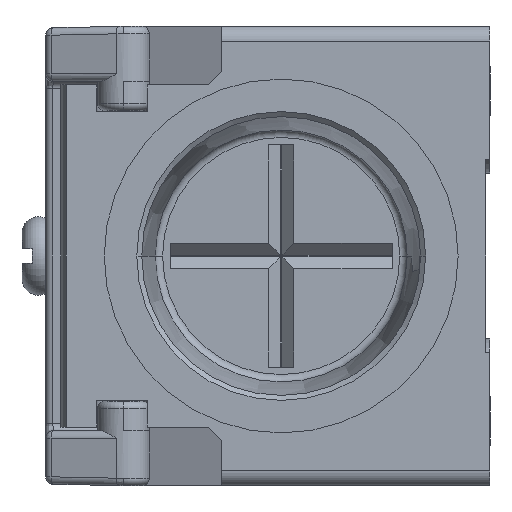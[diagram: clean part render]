
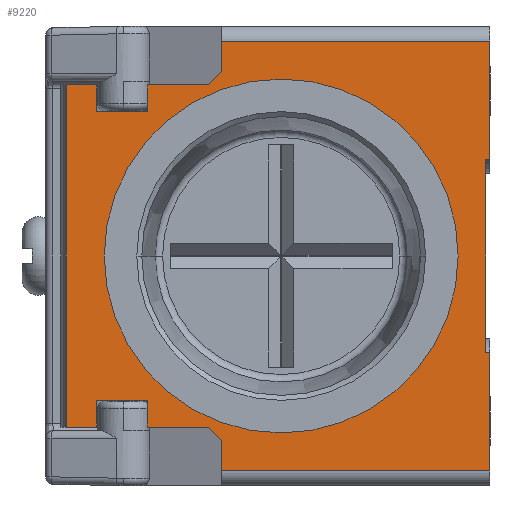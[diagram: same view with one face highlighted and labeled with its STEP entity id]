
A CAD part, left-side view. The second image highlights one B-rep face of the part: STEP entity #9220.
In plain terms, the highlighted planar face has unit normal (-1, 0, 0).
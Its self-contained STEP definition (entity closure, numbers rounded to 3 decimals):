
#6607 = VERTEX_POINT('',#6608);
#6608 = CARTESIAN_POINT('',(-16.956,23.963,6.5));
#6614 = EDGE_CURVE('',#6615,#6607,#6617,.T.);
#6615 = VERTEX_POINT('',#6616);
#6616 = CARTESIAN_POINT('',(-16.956,23.963,-6.5));
#6617 = LINE('',#6618,#6619);
#6618 = CARTESIAN_POINT('',(-16.956,23.963,-6.5));
#6619 = VECTOR('',#6620,1.);
#6620 = DIRECTION('',(0.,0.,1.));
#7945 = VERTEX_POINT('',#7946);
#7946 = CARTESIAN_POINT('',(-16.956,23.663,-6.5));
#7952 = EDGE_CURVE('',#7953,#7945,#7955,.T.);
#7953 = VERTEX_POINT('',#7954);
#7954 = CARTESIAN_POINT('',(-16.956,23.663,-14.5));
#7955 = LINE('',#7956,#7957);
#7956 = CARTESIAN_POINT('',(-16.956,23.663,-14.5));
#7957 = VECTOR('',#7958,1.);
#7958 = DIRECTION('',(0.,0.,1.));
#8252 = VERTEX_POINT('',#8253);
#8253 = CARTESIAN_POINT('',(-16.956,42.663,11.55));
#8259 = EDGE_CURVE('',#8260,#8252,#8262,.T.);
#8260 = VERTEX_POINT('',#8261);
#8261 = CARTESIAN_POINT('',(-16.956,41.763,12.45));
#8262 = LINE('',#8263,#8264);
#8263 = CARTESIAN_POINT('',(-16.956,41.763,12.45));
#8264 = VECTOR('',#8265,1.);
#8265 = DIRECTION('',(0.,0.707,-0.707));
#8285 = EDGE_CURVE('',#8260,#8286,#8288,.T.);
#8286 = VERTEX_POINT('',#8287);
#8287 = CARTESIAN_POINT('',(-16.956,41.763,14.5));
#8288 = LINE('',#8289,#8290);
#8289 = CARTESIAN_POINT('',(-16.956,41.763,12.45));
#8290 = VECTOR('',#8291,1.);
#8291 = DIRECTION('',(0.,0.,1.));
#8308 = EDGE_CURVE('',#8309,#8311,#8313,.T.);
#8309 = VERTEX_POINT('',#8310);
#8310 = CARTESIAN_POINT('',(-16.956,41.763,-14.5));
#8311 = VERTEX_POINT('',#8312);
#8312 = CARTESIAN_POINT('',(-16.956,41.763,-12.45));
#8313 = LINE('',#8314,#8315);
#8314 = CARTESIAN_POINT('',(-16.956,41.763,-14.5));
#8315 = VECTOR('',#8316,1.);
#8316 = DIRECTION('',(0.,0.,1.));
#8341 = EDGE_CURVE('',#8342,#8286,#8344,.T.);
#8342 = VERTEX_POINT('',#8343);
#8343 = CARTESIAN_POINT('',(-16.956,23.663,14.5));
#8344 = LINE('',#8345,#8346);
#8345 = CARTESIAN_POINT('',(-16.956,23.663,14.5));
#8346 = VECTOR('',#8347,1.);
#8347 = DIRECTION('',(0.,1.,0.));
#8453 = EDGE_CURVE('',#8342,#8454,#8456,.T.);
#8454 = VERTEX_POINT('',#8455);
#8455 = CARTESIAN_POINT('',(-16.956,23.663,6.5));
#8456 = LINE('',#8457,#8458);
#8457 = CARTESIAN_POINT('',(-16.956,23.663,14.5));
#8458 = VECTOR('',#8459,1.);
#8459 = DIRECTION('',(0.,0.,-1.));
#9209 = EDGE_CURVE('',#6607,#8454,#9210,.T.);
#9210 = LINE('',#9211,#9212);
#9211 = CARTESIAN_POINT('',(-16.956,23.963,6.5));
#9212 = VECTOR('',#9213,1.);
#9213 = DIRECTION('',(0.,-1.,0.));
#9220 = ADVANCED_FACE('',(#9221,#9337),#9357,.T.);
#9221 = FACE_BOUND('',#9222,.T.);
#9222 = EDGE_LOOP('',(#9223,#9224,#9225,#9233,#9241,#9249,#9257,#9265,
    #9273,#9281,#9289,#9297,#9305,#9313,#9319,#9320,#9326,#9327,#9333,
    #9334,#9335,#9336));
#9223 = ORIENTED_EDGE('',*,*,#8285,.F.);
#9224 = ORIENTED_EDGE('',*,*,#8259,.T.);
#9225 = ORIENTED_EDGE('',*,*,#9226,.F.);
#9226 = EDGE_CURVE('',#9227,#8252,#9229,.T.);
#9227 = VERTEX_POINT('',#9228);
#9228 = CARTESIAN_POINT('',(-16.956,46.813,11.55));
#9229 = LINE('',#9230,#9231);
#9230 = CARTESIAN_POINT('',(-16.956,46.813,11.55));
#9231 = VECTOR('',#9232,1.);
#9232 = DIRECTION('',(0.,-1.,0.));
#9233 = ORIENTED_EDGE('',*,*,#9234,.F.);
#9234 = EDGE_CURVE('',#9235,#9227,#9237,.T.);
#9235 = VERTEX_POINT('',#9236);
#9236 = CARTESIAN_POINT('',(-16.956,46.813,9.75));
#9237 = LINE('',#9238,#9239);
#9238 = CARTESIAN_POINT('',(-16.956,46.813,9.75));
#9239 = VECTOR('',#9240,1.);
#9240 = DIRECTION('',(0.,0.,1.));
#9241 = ORIENTED_EDGE('',*,*,#9242,.T.);
#9242 = EDGE_CURVE('',#9235,#9243,#9245,.T.);
#9243 = VERTEX_POINT('',#9244);
#9244 = CARTESIAN_POINT('',(-16.956,50.213,9.75));
#9245 = LINE('',#9246,#9247);
#9246 = CARTESIAN_POINT('',(-16.956,46.813,9.75));
#9247 = VECTOR('',#9248,1.);
#9248 = DIRECTION('',(0.,1.,0.));
#9249 = ORIENTED_EDGE('',*,*,#9250,.T.);
#9250 = EDGE_CURVE('',#9243,#9251,#9253,.T.);
#9251 = VERTEX_POINT('',#9252);
#9252 = CARTESIAN_POINT('',(-16.956,50.213,11.55));
#9253 = LINE('',#9254,#9255);
#9254 = CARTESIAN_POINT('',(-16.956,50.213,9.75));
#9255 = VECTOR('',#9256,1.);
#9256 = DIRECTION('',(0.,0.,1.));
#9257 = ORIENTED_EDGE('',*,*,#9258,.F.);
#9258 = EDGE_CURVE('',#9259,#9251,#9261,.T.);
#9259 = VERTEX_POINT('',#9260);
#9260 = CARTESIAN_POINT('',(-16.956,52.263,11.55));
#9261 = LINE('',#9262,#9263);
#9262 = CARTESIAN_POINT('',(-16.956,52.263,11.55));
#9263 = VECTOR('',#9264,1.);
#9264 = DIRECTION('',(0.,-1.,0.));
#9265 = ORIENTED_EDGE('',*,*,#9266,.T.);
#9266 = EDGE_CURVE('',#9259,#9267,#9269,.T.);
#9267 = VERTEX_POINT('',#9268);
#9268 = CARTESIAN_POINT('',(-16.956,52.263,-11.55));
#9269 = LINE('',#9270,#9271);
#9270 = CARTESIAN_POINT('',(-16.956,52.263,11.55));
#9271 = VECTOR('',#9272,1.);
#9272 = DIRECTION('',(0.,0.,-1.));
#9273 = ORIENTED_EDGE('',*,*,#9274,.T.);
#9274 = EDGE_CURVE('',#9267,#9275,#9277,.T.);
#9275 = VERTEX_POINT('',#9276);
#9276 = CARTESIAN_POINT('',(-16.956,50.213,-11.55));
#9277 = LINE('',#9278,#9279);
#9278 = CARTESIAN_POINT('',(-16.956,52.263,-11.55));
#9279 = VECTOR('',#9280,1.);
#9280 = DIRECTION('',(0.,-1.,0.));
#9281 = ORIENTED_EDGE('',*,*,#9282,.F.);
#9282 = EDGE_CURVE('',#9283,#9275,#9285,.T.);
#9283 = VERTEX_POINT('',#9284);
#9284 = CARTESIAN_POINT('',(-16.956,50.213,-9.75));
#9285 = LINE('',#9286,#9287);
#9286 = CARTESIAN_POINT('',(-16.956,50.213,-9.75));
#9287 = VECTOR('',#9288,1.);
#9288 = DIRECTION('',(0.,0.,-1.));
#9289 = ORIENTED_EDGE('',*,*,#9290,.F.);
#9290 = EDGE_CURVE('',#9291,#9283,#9293,.T.);
#9291 = VERTEX_POINT('',#9292);
#9292 = CARTESIAN_POINT('',(-16.956,46.813,-9.75));
#9293 = LINE('',#9294,#9295);
#9294 = CARTESIAN_POINT('',(-16.956,46.813,-9.75));
#9295 = VECTOR('',#9296,1.);
#9296 = DIRECTION('',(0.,1.,0.));
#9297 = ORIENTED_EDGE('',*,*,#9298,.T.);
#9298 = EDGE_CURVE('',#9291,#9299,#9301,.T.);
#9299 = VERTEX_POINT('',#9300);
#9300 = CARTESIAN_POINT('',(-16.956,46.813,-11.55));
#9301 = LINE('',#9302,#9303);
#9302 = CARTESIAN_POINT('',(-16.956,46.813,-9.75));
#9303 = VECTOR('',#9304,1.);
#9304 = DIRECTION('',(0.,0.,-1.));
#9305 = ORIENTED_EDGE('',*,*,#9306,.T.);
#9306 = EDGE_CURVE('',#9299,#9307,#9309,.T.);
#9307 = VERTEX_POINT('',#9308);
#9308 = CARTESIAN_POINT('',(-16.956,42.663,-11.55));
#9309 = LINE('',#9310,#9311);
#9310 = CARTESIAN_POINT('',(-16.956,46.813,-11.55));
#9311 = VECTOR('',#9312,1.);
#9312 = DIRECTION('',(0.,-1.,0.));
#9313 = ORIENTED_EDGE('',*,*,#9314,.T.);
#9314 = EDGE_CURVE('',#9307,#8311,#9315,.T.);
#9315 = LINE('',#9316,#9317);
#9316 = CARTESIAN_POINT('',(-16.956,42.663,-11.55));
#9317 = VECTOR('',#9318,1.);
#9318 = DIRECTION('',(0.,-0.707,-0.707));
#9319 = ORIENTED_EDGE('',*,*,#8308,.F.);
#9320 = ORIENTED_EDGE('',*,*,#9321,.T.);
#9321 = EDGE_CURVE('',#8309,#7953,#9322,.T.);
#9322 = LINE('',#9323,#9324);
#9323 = CARTESIAN_POINT('',(-16.956,41.763,-14.5));
#9324 = VECTOR('',#9325,1.);
#9325 = DIRECTION('',(0.,-1.,0.));
#9326 = ORIENTED_EDGE('',*,*,#7952,.T.);
#9327 = ORIENTED_EDGE('',*,*,#9328,.F.);
#9328 = EDGE_CURVE('',#6615,#7945,#9329,.T.);
#9329 = LINE('',#9330,#9331);
#9330 = CARTESIAN_POINT('',(-16.956,23.963,-6.5));
#9331 = VECTOR('',#9332,1.);
#9332 = DIRECTION('',(0.,-1.,0.));
#9333 = ORIENTED_EDGE('',*,*,#6614,.T.);
#9334 = ORIENTED_EDGE('',*,*,#9209,.T.);
#9335 = ORIENTED_EDGE('',*,*,#8453,.F.);
#9336 = ORIENTED_EDGE('',*,*,#8341,.T.);
#9337 = FACE_BOUND('',#9338,.T.);
#9338 = EDGE_LOOP('',(#9339,#9350));
#9339 = ORIENTED_EDGE('',*,*,#9340,.F.);
#9340 = EDGE_CURVE('',#9341,#9343,#9345,.T.);
#9341 = VERTEX_POINT('',#9342);
#9342 = CARTESIAN_POINT('',(-16.956,37.763,-9.75));
#9343 = VERTEX_POINT('',#9344);
#9344 = CARTESIAN_POINT('',(-16.956,37.763,9.75));
#9345 = CIRCLE('',#9346,9.75);
#9346 = AXIS2_PLACEMENT_3D('',#9347,#9348,#9349);
#9347 = CARTESIAN_POINT('',(-16.956,37.763,
    0.));
#9348 = DIRECTION('',(-1.,0.,0.));
#9349 = DIRECTION('',(0.,0.,-1.));
#9350 = ORIENTED_EDGE('',*,*,#9351,.F.);
#9351 = EDGE_CURVE('',#9343,#9341,#9352,.T.);
#9352 = CIRCLE('',#9353,9.75);
#9353 = AXIS2_PLACEMENT_3D('',#9354,#9355,#9356);
#9354 = CARTESIAN_POINT('',(-16.956,37.763,
    0.));
#9355 = DIRECTION('',(-1.,0.,0.));
#9356 = DIRECTION('',(0.,0.,1.));
#9357 = PLANE('',#9358);
#9358 = AXIS2_PLACEMENT_3D('',#9359,#9360,#9361);
#9359 = CARTESIAN_POINT('',(-16.956,48.763,-15.5));
#9360 = DIRECTION('',(-1.,0.,0.));
#9361 = DIRECTION('',(0.,0.,1.));
